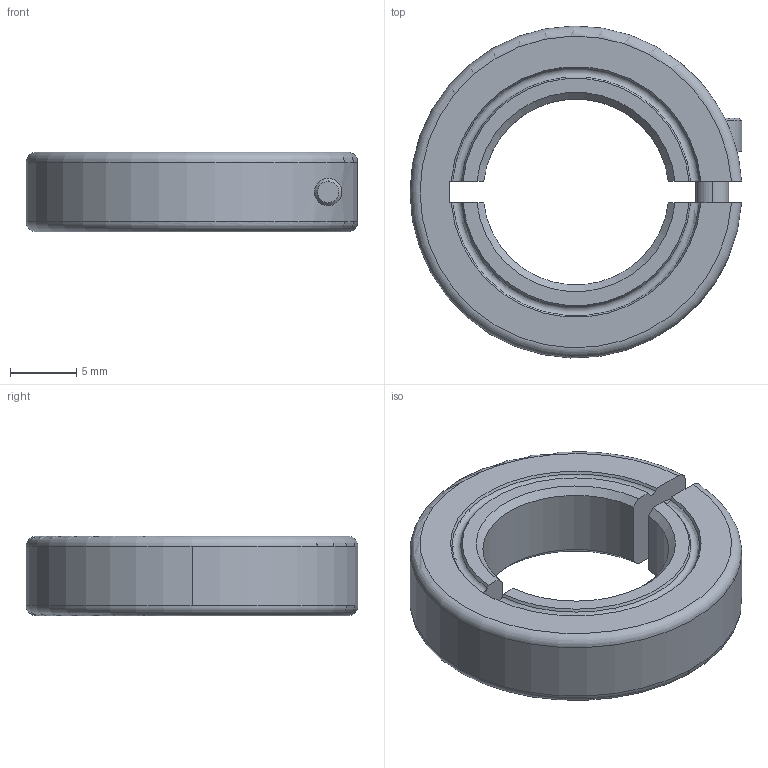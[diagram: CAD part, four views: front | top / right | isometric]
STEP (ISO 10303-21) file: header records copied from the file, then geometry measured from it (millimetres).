
FILE_DESCRIPTION (( 'STEP AP214' ), '1' );
FILE_NAME ('Ruland_ENCL25-14MM-A.step', '2019-11-14T11:28:09', ( '' ), ( '' ), 'SwSTEP 2.0', 'SolidWorks 2019', '' );
FILE_SCHEMA (( 'AUTOMOTIVE_DESIGN' ));
Length unit declared in the file: inch
Products named in the file (3): CAP SCREWS_CFM2.5_8; Ruland_ENCL25-14MM-A; ENCLxx-xx-x_ENCL25-14MM-A
Assembly tree (2 placements, depth 2):
  Ruland_ENCL25-14MM-A
    ENCLxx-xx-x_ENCL25-14MM-A
    CAP SCREWS_CFM2.5_8
Bounding box: 25 x 24.99 x 6 mm (x, y, z)
Volume: 1873.8 mm3; surface area: 1615.6 mm2
Topology: 2 solids, 2 shells, 54 faces, 138 edges, 90 vertices
Faces by surface type: plane 20, cylinder 16, cone 12, torus 6
Entity records: 1882 total; most frequent: CARTESIAN_POINT 444, DIRECTION 280, ORIENTED_EDGE 276, EDGE_CURVE 138, AXIS2_PLACEMENT_3D 108, VERTEX_POINT 90, VECTOR 64, LINE 64
